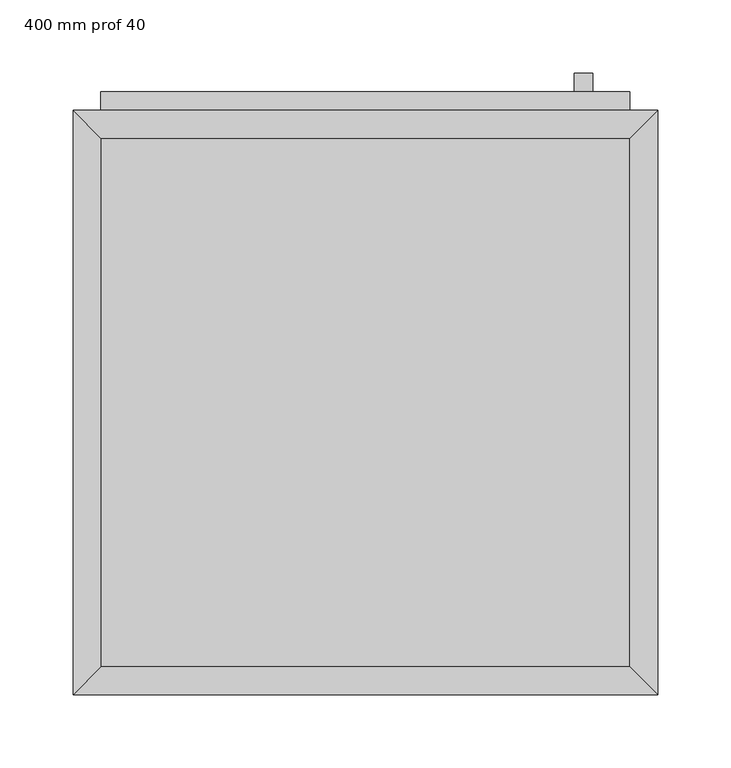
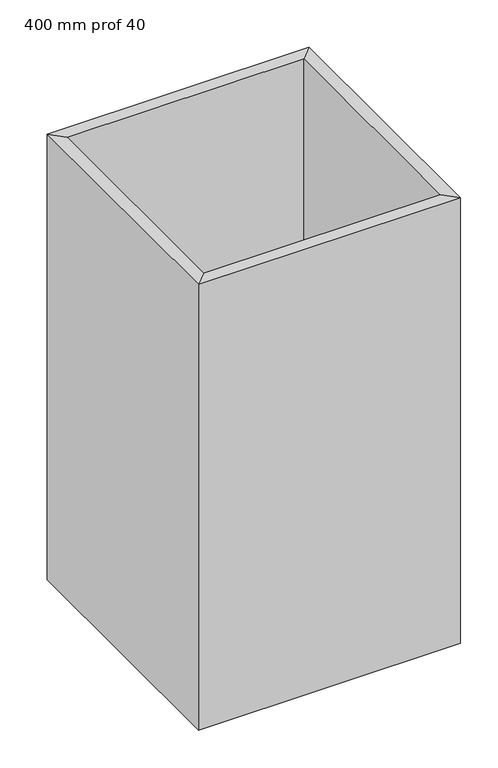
"""IFC4 building model written with IfcOpenShell, lengths in millimetres: furniture geometry, Armario-Una puerta : 400 mm prof 40."""

from ifc_helpers import new_model, si_unit, frame, origin, place, context, project, spatial, polyline, outline, extrude, faceted_brep, source, transform, mapped, element, save


def furniture_400_mm_prof_40_ac4916a1(model_context):
    return source(origin(), model_context, "Body", "SolidModel", [
        extrude(outline(polyline([(199.6877049, 19.05), (-162.2122951, 19.05), (-162.2122951, 380.95), (199.6877049, 380.95), (199.6877049, 19.05)])), frame((0.0, 0.0, 150.0), z_axis=(0.0, 0.0, 1.0), x_axis=(1.0, 0.0, 0.0)), (0.0, 0.0, 1.0), 19.05),
        faceted_brep([(199.6877049, 380.95, 870.0), (-162.2122951, 380.95, 870.0), (-162.2122951, 380.95, 150.0), (199.6877049, 380.95, 150.0), (218.7377049, 400.0, 870.0), (-181.2622951, 400.0, 870.0), (218.7377049, 400.0, 150.0), (-181.2622951, 400.0, 150.0), (-162.2122951, 19.05, 870.0), (-162.2122951, 19.05, 150.0), (-181.2622951, 0.0, 870.0), (-181.2622951, 0.0, 150.0), (199.6877049, 19.05, 870.0), (199.6877049, 19.05, 150.0), (218.7377049, 0.0, 870.0), (218.7377049, 0.0, 150.0)], [[[0, 1, 2, 3]], [[4, 5, 1, 0]], [[6, 7, 5, 4]], [[3, 2, 7, 6]], [[1, 8, 9, 2]], [[5, 10, 8, 1]], [[7, 11, 10, 5]], [[2, 9, 11, 7]], [[8, 12, 13, 9]], [[10, 14, 12, 8]], [[11, 15, 14, 10]], [[9, 13, 15, 11]], [[12, 0, 3, 13]], [[14, 4, 0, 12]], [[15, 6, 4, 14]], [[13, 3, 6, 15]]]),
        extrude(outline(polyline([(199.6877049, 412.7), (199.6877049, 400.0), (-162.2122951, 400.0), (-162.2122951, 412.7), (199.6877049, 412.7)])), frame((0.0, 0.0, 169.05), z_axis=(0.0, 0.0, 1.0), x_axis=(1.0, 0.0, 0.0)), (0.0, 0.0, 1.0), 681.9),
        extrude(outline(polyline([(174.2877049, 425.4), (174.2877049, 412.7), (161.5877049, 412.7), (161.5877049, 425.4), (174.2877049, 425.4)])), frame((0.0, 0.0, 711.25), z_axis=(0.0, 0.0, 1.0), x_axis=(1.0, 0.0, 0.0)), (0.0, 0.0, 1.0), 101.6),
    ])


if __name__ == "__main__":
    model = new_model("IFC4")
    model_context = context("Model", 3, world=origin())
    ifc_project = project(units=[si_unit("LENGTHUNIT", "METRE", prefix="MILLI")], contexts=[model_context])
    site = spatial("IfcSite", under=ifc_project)
    building = spatial("IfcBuilding", under=site)
    placement = place(None, origin())
    furniture_400_mm_prof_40_shape = furniture_400_mm_prof_40_ac4916a1(model_context)
    element("IfcFurniture", 1, ObjectType="Armario-Una puerta : 400 mm prof 40", at=placement, inside=building, context=model_context, shape_type="MappedRepresentation", body=[
        mapped(furniture_400_mm_prof_40_shape, transform((0.0, 0.0, 0.0), x_axis=(1.0, 0.0, 0.0), y_axis=(0.0, 1.0, 0.0), z_axis=(0.0, 0.0, 1.0))),
    ])
    save(model, "model.ifc")
